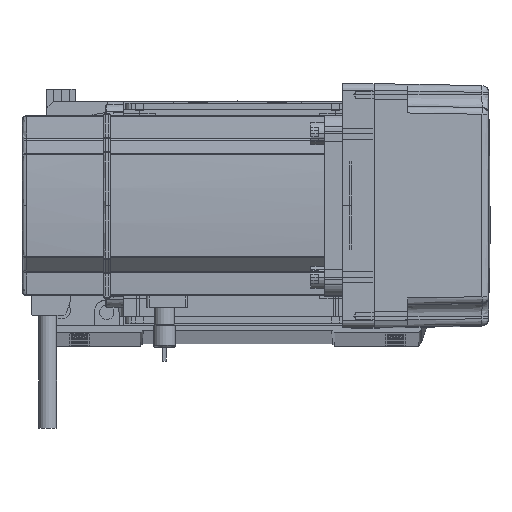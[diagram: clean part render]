
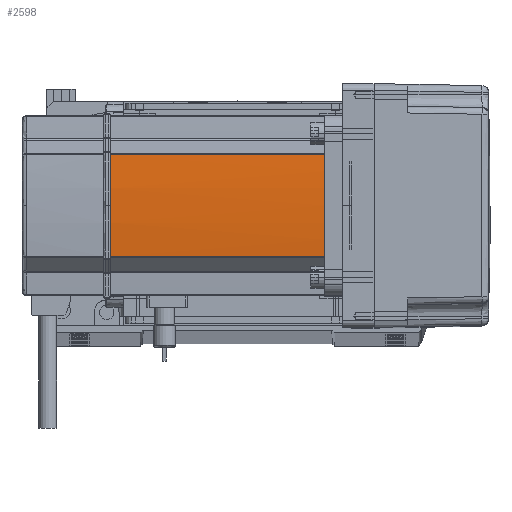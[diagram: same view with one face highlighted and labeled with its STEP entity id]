
A CAD part, top view. The second image highlights one B-rep face of the part: STEP entity #2598.
In plain terms, the highlighted cylindrical face has radius 270 mm (diameter 540 mm), a partial arc.
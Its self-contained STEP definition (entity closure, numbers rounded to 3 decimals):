
#2062 = VECTOR ( 'NONE', #45907, 1000. ) ;
#2598 = ADVANCED_FACE ( 'NONE', ( #7401 ), #19644, .T. ) ;
#4937 = VERTEX_POINT ( 'NONE', #49201 ) ;
#6074 = LINE ( 'NONE', #20167, #2062 ) ;
#7401 = FACE_OUTER_BOUND ( 'NONE', #42173, .T. ) ;
#10191 = VERTEX_POINT ( 'NONE', #51833 ) ;
#11787 = AXIS2_PLACEMENT_3D ( 'NONE', #25945, #31113, #36345 ) ;
#14169 = ORIENTED_EDGE ( 'NONE', *, *, #19370, .T. ) ;
#14365 = VECTOR ( 'NONE', #15834, 1000. ) ;
#15834 = DIRECTION ( 'NONE',  ( 0., 0., 1. ) ) ;
#15977 = DIRECTION ( 'NONE',  ( 1., 0., 0. ) ) ;
#16209 = CARTESIAN_POINT ( 'NONE',  ( 230., 0., 0. ) ) ;
#17217 = EDGE_CURVE ( 'NONE', #10191, #63459, #17620, .T. ) ;
#17620 = LINE ( 'NONE', #41110, #14365 ) ;
#19118 = CARTESIAN_POINT ( 'NONE',  ( -39.042, -22.724, 134. ) ) ;
#19370 = EDGE_CURVE ( 'NONE', #4937, #61373, #51578, .T. ) ;
#19644 = CYLINDRICAL_SURFACE ( 'NONE', #55260, 270. ) ;
#20167 = CARTESIAN_POINT ( 'NONE',  ( -39.042, 22.724, 0. ) ) ;
#22287 = ORIENTED_EDGE ( 'NONE', *, *, #64228, .T. ) ;
#25945 = CARTESIAN_POINT ( 'NONE',  ( 230., 0., 134. ) ) ;
#31113 = DIRECTION ( 'NONE',  ( 0., 0., -1. ) ) ;
#31666 = DIRECTION ( 'NONE',  ( 0., 0., 1. ) ) ;
#35957 = CARTESIAN_POINT ( 'NONE',  ( -39.042, 22.724, 39. ) ) ;
#36345 = DIRECTION ( 'NONE',  ( 1., 0., 0. ) ) ;
#40984 = CARTESIAN_POINT ( 'NONE',  ( 230., 0., 39. ) ) ;
#41110 = CARTESIAN_POINT ( 'NONE',  ( -39.042, -22.724, 0. ) ) ;
#42173 = EDGE_LOOP ( 'NONE', ( #44918, #14169, #22287, #62045, #57600 ) ) ;
#42699 = CARTESIAN_POINT ( 'NONE',  ( 230., 0., 134. ) ) ;
#44320 = VERTEX_POINT ( 'NONE', #35957 ) ;
#44918 = ORIENTED_EDGE ( 'NONE', *, *, #50147, .T. ) ;
#45907 = DIRECTION ( 'NONE',  ( 0., 0., -1. ) ) ;
#48990 = CIRCLE ( 'NONE', #61144, 270. ) ;
#49201 = CARTESIAN_POINT ( 'NONE',  ( -40., 0., 134. ) ) ;
#50147 = EDGE_CURVE ( 'NONE', #63459, #4937, #48990, .T. ) ;
#50297 = AXIS2_PLACEMENT_3D ( 'NONE', #40984, #67375, #62129 ) ;
#50974 = EDGE_CURVE ( 'NONE', #10191, #44320, #56841, .T. ) ;
#51578 = CIRCLE ( 'NONE', #11787, 270. ) ;
#51833 = CARTESIAN_POINT ( 'NONE',  ( -39.042, -22.724, 39. ) ) ;
#55260 = AXIS2_PLACEMENT_3D ( 'NONE', #16209, #31666, #15977 ) ;
#56841 = CIRCLE ( 'NONE', #50297, 270. ) ;
#57600 = ORIENTED_EDGE ( 'NONE', *, *, #17217, .T. ) ;
#58374 = DIRECTION ( 'NONE',  ( 1., 0., 0. ) ) ;
#61144 = AXIS2_PLACEMENT_3D ( 'NONE', #42699, #63851, #58374 ) ;
#61373 = VERTEX_POINT ( 'NONE', #65825 ) ;
#62045 = ORIENTED_EDGE ( 'NONE', *, *, #50974, .F. ) ;
#62129 = DIRECTION ( 'NONE',  ( 1., 0., 0. ) ) ;
#63459 = VERTEX_POINT ( 'NONE', #19118 ) ;
#63851 = DIRECTION ( 'NONE',  ( 0., 0., -1. ) ) ;
#64228 = EDGE_CURVE ( 'NONE', #61373, #44320, #6074, .T. ) ;
#65825 = CARTESIAN_POINT ( 'NONE',  ( -39.042, 22.724, 134. ) ) ;
#67375 = DIRECTION ( 'NONE',  ( 0., 0., -1. ) ) ;
